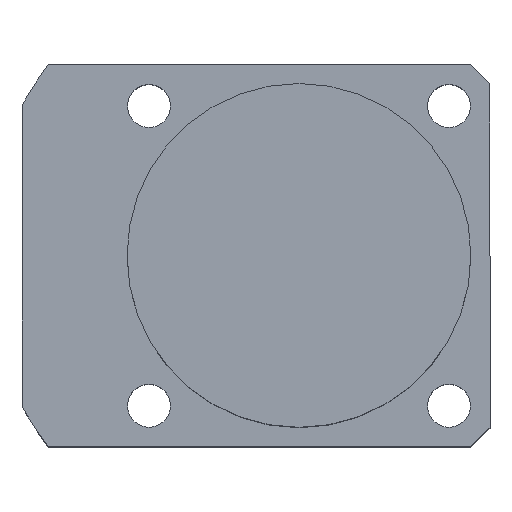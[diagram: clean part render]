
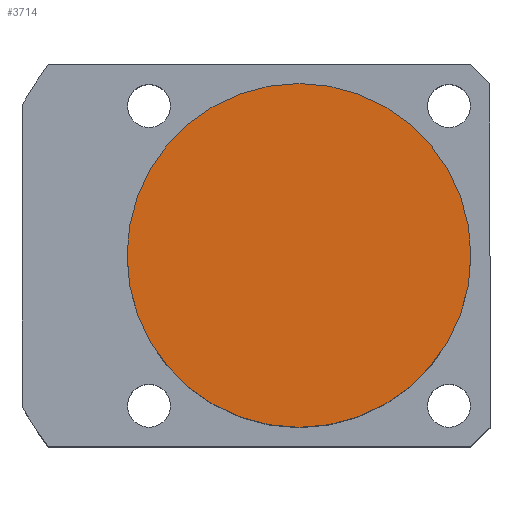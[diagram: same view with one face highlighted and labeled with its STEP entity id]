
A CAD part, top view. The second image highlights one B-rep face of the part: STEP entity #3714.
In plain terms, the highlighted planar face has unit normal (0, 0, 1).
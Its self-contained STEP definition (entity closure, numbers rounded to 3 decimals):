
#208 = DIRECTION ( 'NONE',  ( 1., 0., 0. ) ) ;
#385 = DIRECTION ( 'NONE',  ( 1., 0., 0. ) ) ;
#423 = VERTEX_POINT ( 'NONE', #1432 ) ;
#426 = DIRECTION ( 'NONE',  ( 0., 0., 1. ) ) ;
#482 = EDGE_CURVE ( 'NONE', #612, #423, #2334, .T. ) ;
#612 = VERTEX_POINT ( 'NONE', #1156 ) ;
#887 = AXIS2_PLACEMENT_3D ( 'NONE', #2300, #426, #2628 ) ;
#1156 = CARTESIAN_POINT ( 'NONE',  ( 18., 0., 33.5 ) ) ;
#1326 = CARTESIAN_POINT ( 'NONE',  ( 0., 0., 33.5 ) ) ;
#1432 = CARTESIAN_POINT ( 'NONE',  ( -18., 0., 33.5 ) ) ;
#1618 = AXIS2_PLACEMENT_3D ( 'NONE', #1326, #2257, #385 ) ;
#1731 = EDGE_LOOP ( 'NONE', ( #2118, #2083 ) ) ;
#1938 = PLANE ( 'NONE',  #1618 ) ;
#2067 = DIRECTION ( 'NONE',  ( 0., 0., 1. ) ) ;
#2083 = ORIENTED_EDGE ( 'NONE', *, *, #482, .T. ) ;
#2118 = ORIENTED_EDGE ( 'NONE', *, *, #3524, .T. ) ;
#2257 = DIRECTION ( 'NONE',  ( 0., 0., 1. ) ) ;
#2300 = CARTESIAN_POINT ( 'NONE',  ( 0., 0., 33.5 ) ) ;
#2334 = CIRCLE ( 'NONE', #2743, 18. ) ;
#2628 = DIRECTION ( 'NONE',  ( 1., 0., 0. ) ) ;
#2743 = AXIS2_PLACEMENT_3D ( 'NONE', #3946, #2067, #208 ) ;
#3209 = FACE_OUTER_BOUND ( 'NONE', #1731, .T. ) ;
#3524 = EDGE_CURVE ( 'NONE', #423, #612, #3696, .T. ) ;
#3696 = CIRCLE ( 'NONE', #887, 18. ) ;
#3714 = ADVANCED_FACE ( 'NONE', ( #3209 ), #1938, .T. ) ;
#3946 = CARTESIAN_POINT ( 'NONE',  ( 0., 0., 33.5 ) ) ;
